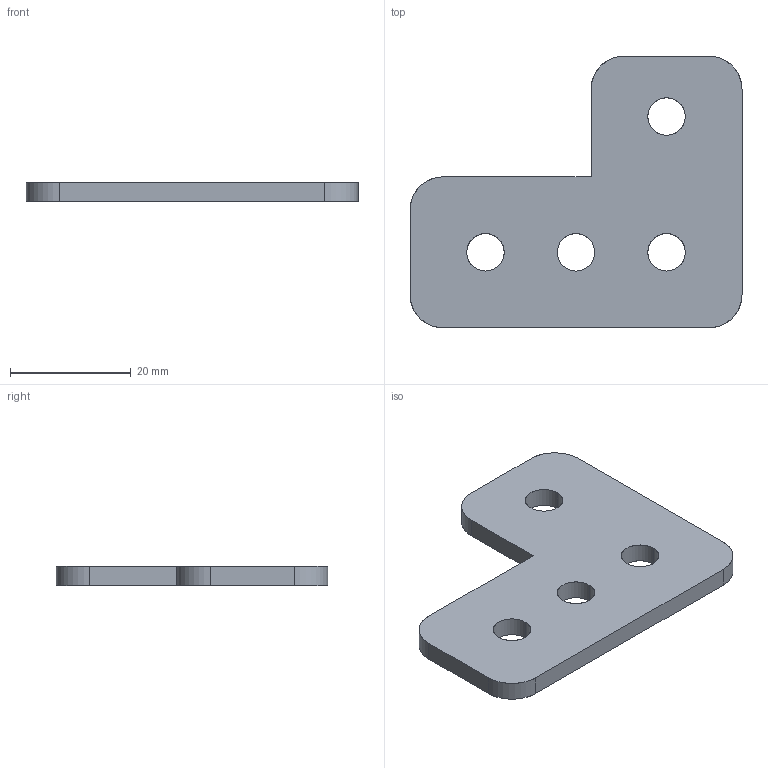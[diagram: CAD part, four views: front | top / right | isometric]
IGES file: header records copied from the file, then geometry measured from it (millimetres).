
Start section: SolidWorks IGES file using analytic representation for surfaces
Global section: file name: C:\Documents and Settings\CAD53\デスクトップ\IGES\N01913-108-0.IGS; native system: SolidWorks 2005 by SolidWorks Corporation; preprocessor: SolidWorks 2005 by SolidWorks Corporation; author: CAD53; date: 070530.091755; units: millimetre
Bounding box: 55 x 45 x 3.2 mm (x, y, z)
Surface area: 4295.1 mm2 (no closed solid volume)
Topology: 0 solids, 0 shells, 21 faces, 424 edges, 424 vertices
Faces by surface type: revolution 13, bspline 8
